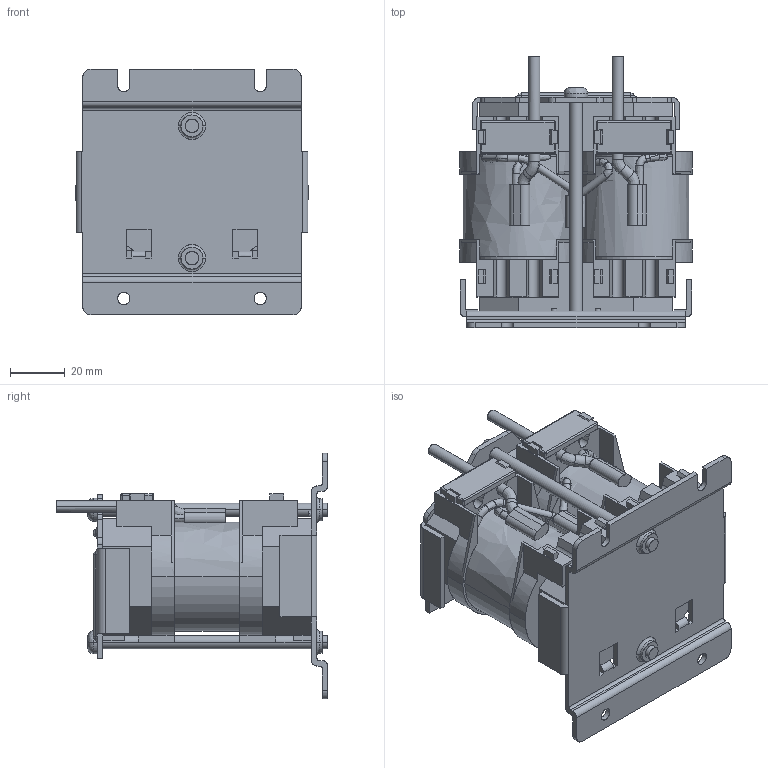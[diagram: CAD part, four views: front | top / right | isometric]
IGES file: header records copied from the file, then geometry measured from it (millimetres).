
Start section: SolidWorks IGES file using analytic representation for surfaces
Global section: file name: \\10.106.230.1\r&d file\05_COMP\02_Mechanical\10_Others\PV_RT 81\网络用3D模型\立式\网络用模型\3KW_G_DCL.IGS; native system: SolidWorks 2009; preprocessor: SolidWorks 2009; author: 钱雅婧,,1; organization: 1; date: 120508.141153; units: millimetre
Bounding box: 85.4 x 99.5 x 90 mm (x, y, z)
Surface area: 89846.1 mm2 (no closed solid volume)
Topology: 0 solids, 0 shells, 741 faces, 6392 edges, 6376 vertices
Faces by surface type: bspline 486, revolution 255
